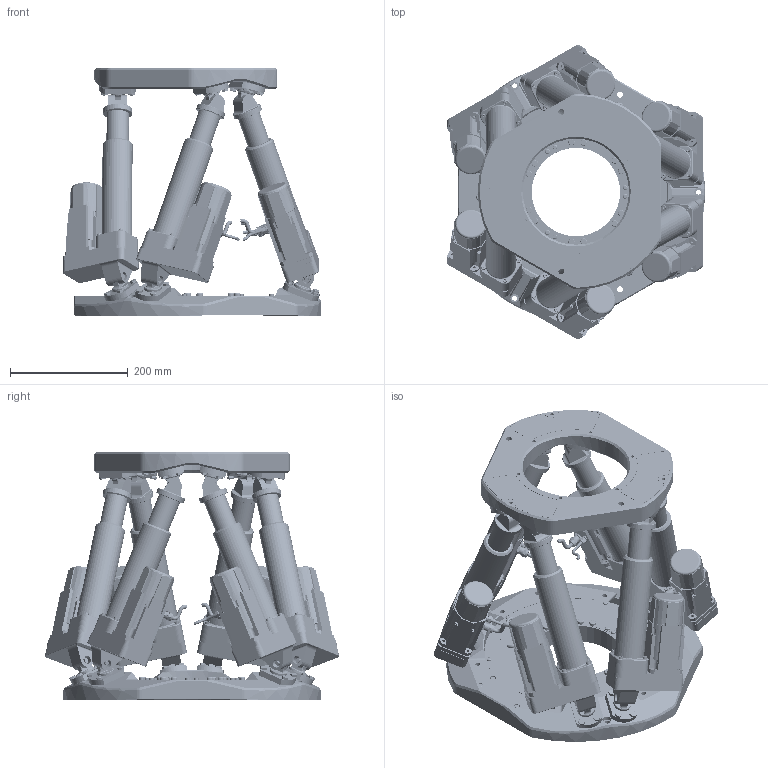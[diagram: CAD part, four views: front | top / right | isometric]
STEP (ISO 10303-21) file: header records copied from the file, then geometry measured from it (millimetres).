
FILE_DESCRIPTION (( 'STEP AP214' ), '1' );
FILE_NAME ('STD14_0000_HEGOA Hexapod_A0.STEP', '2026-05-11T13:38:59', ( '' ), ( '' ), 'SwSTEP 2.0', 'SolidWorks 2025', '' );
FILE_SCHEMA (( 'AUTOMOTIVE_DESIGN' ));
Length unit declared in the file: millimetre
Products named in the file (30): STD03_0310_Articulation Plateau_Light; STD14_0160_Plateau Mobile; STD14_0110_Plateau Fixe_Light; STD14_0210_Corps Actionneurs articule_Impair light; STD14_0200_Actionneurs_Impair light-2; STD14_0211_Corps Actionneurs light; STD14_0200_Actionneurs_Impair light-1; STD14_2501_Moteur; STD14_0100_Plateaux_PF light; STD14_0160_Plateau Mobile_Light; STD03_0310_Articulation Plateau; STD03_0320_Articulation Noix; STD14_0000_HEGOA Hexapod_A0; STD14_1202_Bati capot_Light; STD14_0200_Actionneurs_Impair light; STD14_0100_Plateaux_PM Light; STD14_0200_Actionneurs_Pair light-1; STD14_0220_Tige Actionneur articule light; STD14_0110_Plateau Fixe; STD14_0220_Tige Actioneur articule_Light; STD14_0210_Corps Actionneurs articule_Pair light; STD14_0200_Actionneurs_Pair light-2; STD03_0300_Articulation BREVA_Light Noix; STD14_0211_Corps Actionneurs_Impair light; STD14_0330_Articulation Corps_Light; STD03_0300_Articulation BREVA_Light Plateau; STD14_0500_Assemblage moteur_Light; STD14_0211_Corps Actionneurs_Pair light; STD03_0320_Articulation Noix_Light; STD14_0200_Actionneurs_Pair light
Assembly tree (63 placements, depth 6):
  STD14_0000_HEGOA Hexapod_A0
    STD14_0100_Plateaux_PF light
      STD14_0110_Plateau Fixe_Light
        STD14_0110_Plateau Fixe
    STD14_0100_Plateaux_PM Light
      STD14_0160_Plateau Mobile_Light
        STD14_0160_Plateau Mobile
    STD14_0200_Actionneurs_Impair light
      STD14_0210_Corps Actionneurs articule_Impair light
        STD14_0211_Corps Actionneurs_Impair light
          STD14_0500_Assemblage moteur_Light
            STD14_2501_Moteur
          STD14_0211_Corps Actionneurs light
        STD14_0330_Articulation Corps_Light
          STD14_1202_Bati capot_Light
      STD14_0220_Tige Actioneur articule_Light
        STD14_0220_Tige Actionneur articule light
      STD03_0300_Articulation BREVA_Light Noix  x2
        STD03_0320_Articulation Noix_Light
          STD03_0320_Articulation Noix
      STD03_0300_Articulation BREVA_Light Plateau  x2
        STD03_0310_Articulation Plateau_Light
          STD03_0310_Articulation Plateau
    STD14_0200_Actionneurs_Pair light
      STD14_0210_Corps Actionneurs articule_Pair light
        STD14_0211_Corps Actionneurs_Pair light
          STD14_0500_Assemblage moteur_Light
            STD14_2501_Moteur
          STD14_0211_Corps Actionneurs light
        STD14_0330_Articulation Corps_Light
          STD14_1202_Bati capot_Light
      STD14_0220_Tige Actioneur articule_Light
        STD14_0220_Tige Actionneur articule light
      STD03_0300_Articulation BREVA_Light Noix  x2
        STD03_0320_Articulation Noix_Light
          STD03_0320_Articulation Noix
      STD03_0300_Articulation BREVA_Light Plateau  x2
        STD03_0310_Articulation Plateau_Light
          STD03_0310_Articulation Plateau
    STD14_0200_Actionneurs_Impair light-1
      STD14_0210_Corps Actionneurs articule_Impair light
        STD14_0211_Corps Actionneurs_Impair light
          STD14_0500_Assemblage moteur_Light
            STD14_2501_Moteur
          STD14_0211_Corps Actionneurs light
        STD14_0330_Articulation Corps_Light
          STD14_1202_Bati capot_Light
      STD14_0220_Tige Actioneur articule_Light
        STD14_0220_Tige Actionneur articule light
      STD03_0300_Articulation BREVA_Light Noix  x2
        STD03_0320_Articulation Noix_Light
          STD03_0320_Articulation Noix
      STD03_0300_Articulation BREVA_Light Plateau  x2
        STD03_0310_Articulation Plateau_Light
          STD03_0310_Articulation Plateau
    STD14_0200_Actionneurs_Pair light-1
      STD14_0210_Corps Actionneurs articule_Pair light
        STD14_0211_Corps Actionneurs_Pair light
          STD14_0500_Assemblage moteur_Light
            STD14_2501_Moteur
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Bounding box: 437.67 x 498.87 x 420 mm (x, y, z)
Volume: 13257509.2 mm3; surface area: 1474853.3 mm2
Topology: 62 solids, 86 shells, 4976 faces, 11928 edges, 7318 vertices
Faces by surface type: plane 2496, cylinder 1409, cone 721, torus 224, bspline 114, sphere 12
Entity records: 43961 total; most frequent: CARTESIAN_POINT 10894, DIRECTION 6969, ORIENTED_EDGE 6674, EDGE_CURVE 3337, AXIS2_PLACEMENT_3D 2709, VERTEX_POINT 2105, LINE 1551, VECTOR 1551
